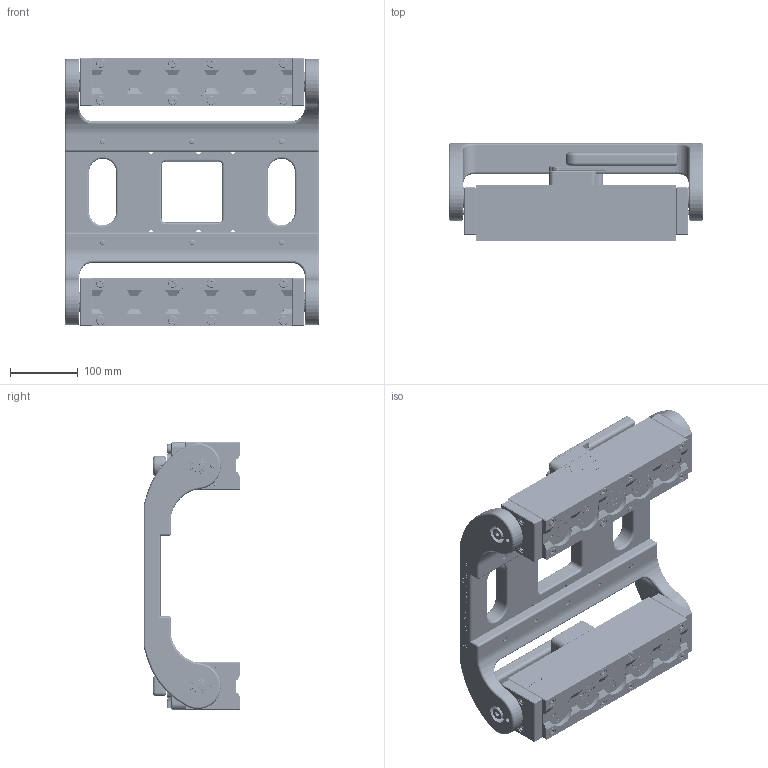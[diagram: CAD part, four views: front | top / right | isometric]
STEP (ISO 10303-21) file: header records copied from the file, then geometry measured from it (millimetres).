
FILE_DESCRIPTION (( 'STEP AP214' ), '1' );
FILE_NAME ('88001856_CFM.STEP', '2024-09-10T17:34:39', ( '' ), ( '' ), 'SwSTEP 2.0', 'SolidWorks 2022', '' );
FILE_SCHEMA (( 'AUTOMOTIVE_DESIGN' ));
Length unit declared in the file: millimetre
Products named in the file (3): 88001778_CFM; 88001856_CFM; 3002542
Assembly tree (3 placements, depth 2):
  88001856_CFM
    88001778_CFM  x2
    3002542
Bounding box: 376 x 143 x 396 mm (x, y, z)
Volume: 6682349 mm3; surface area: 1012829.8 mm2
Topology: 149 solids, 173 shells, 15502 faces, 39854 edges, 26006 vertices
Faces by surface type: plane 8428, bspline 5318, cylinder 952, cone 646, torus 134, sphere 24
Full cylindrical faces by diameter (mm): 2.5 x4, 2.87 x2, 3.2 x2, 3.3 x6, 4 x14, 5 x22, 5.6 x8, 6 x10, 6.1 x4, 6.2 x2, 6.4 x12, 6.6 x8, 6.8 x20, 7 x36, 8 x172, 8.2 x16, 8.254 x4, 8.5 x8, 8.6 x6, 8.9 x2, 9 x8, 9.2 x4, 10 x20, 10.8 x4, 10.9 x2, 11 x10, 11.2 x2, 12 x24, 13 x34, 13.2 x18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
Entity records: 519272 total; most frequent: CARTESIAN_POINT 258504, ORIENTED_EDGE 42684, DIRECTION 27463, EDGE_CURVE 21342, VERTEX_POINT 14182, VECTOR 13305, LINE 13305, EDGE_LOOP 9806
